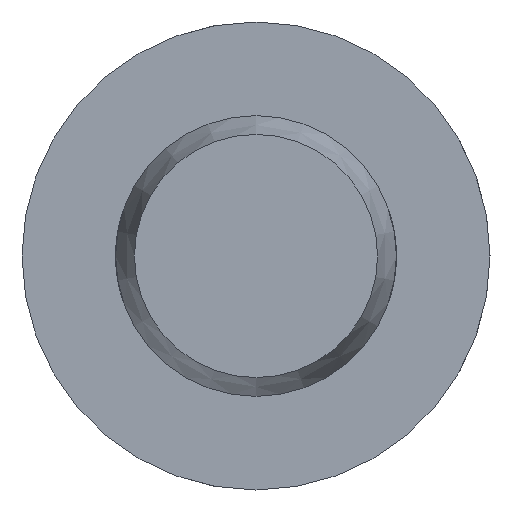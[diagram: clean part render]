
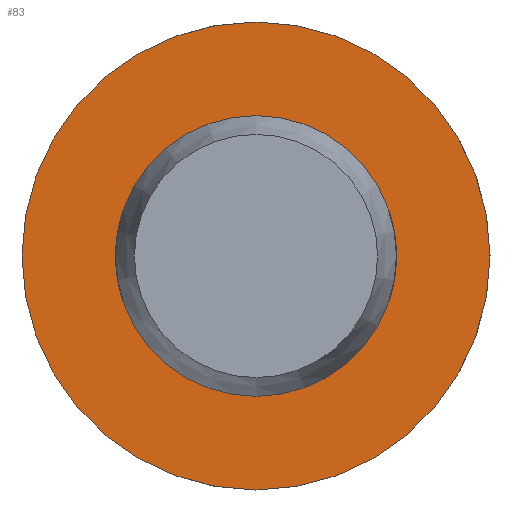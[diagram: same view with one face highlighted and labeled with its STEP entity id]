
A CAD part, left-side view. The second image highlights one B-rep face of the part: STEP entity #83.
In plain terms, the highlighted planar face has unit normal (-1, 0, 0).
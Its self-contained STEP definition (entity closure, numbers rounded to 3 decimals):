
#83 = ADVANCED_FACE( '', ( #129, #130 ), #131, .F. );
#129 = FACE_OUTER_BOUND( '', #208, .T. );
#130 = FACE_BOUND( '', #209, .T. );
#131 = PLANE( '', #210 );
#208 = EDGE_LOOP( '', ( #325 ) );
#209 = EDGE_LOOP( '', ( #326 ) );
#210 = AXIS2_PLACEMENT_3D( '', #327, #328, #329 );
#325 = ORIENTED_EDGE( '', *, *, #493, .F. );
#326 = ORIENTED_EDGE( '', *, *, #483, .T. );
#327 = CARTESIAN_POINT( '', ( 67., 3., 0. ) );
#328 = DIRECTION( '', ( 1., 0., 0. ) );
#329 = DIRECTION( '', ( 0., 0., -1. ) );
#483 = EDGE_CURVE( '', #554, #554, #555, .T. );
#493 = EDGE_CURVE( '', #572, #572, #573, .T. );
#554 = VERTEX_POINT( '', #741 );
#555 = CIRCLE( '', #742, 3. );
#572 = VERTEX_POINT( '', #850 );
#573 = CIRCLE( '', #851, 5. );
#741 = CARTESIAN_POINT( '', ( 67., 0., -3. ) );
#742 = AXIS2_PLACEMENT_3D( '', #914, #915, #916 );
#850 = CARTESIAN_POINT( '', ( 67., 0., -5. ) );
#851 = AXIS2_PLACEMENT_3D( '', #935, #936, #937 );
#914 = CARTESIAN_POINT( '', ( 67., 0., 0. ) );
#915 = DIRECTION( '', ( 1., 0., 0. ) );
#916 = DIRECTION( '', ( 0., 0., -1. ) );
#935 = CARTESIAN_POINT( '', ( 67., 0., 0. ) );
#936 = DIRECTION( '', ( 1., 0., 0. ) );
#937 = DIRECTION( '', ( 0., 0., -1. ) );
